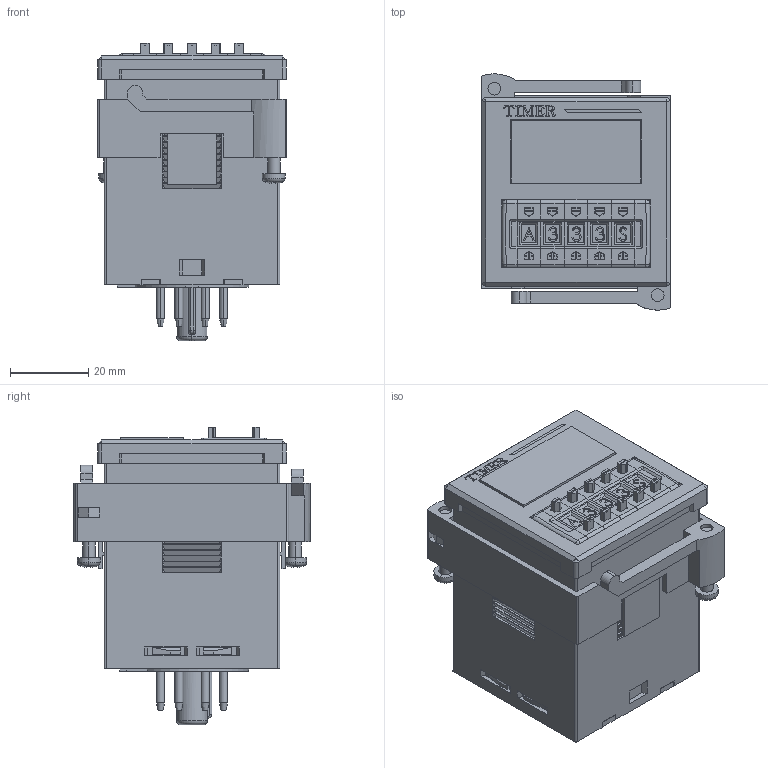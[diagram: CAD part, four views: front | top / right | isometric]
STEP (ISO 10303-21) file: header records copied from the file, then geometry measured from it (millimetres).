
FILE_DESCRIPTION (( 'STEP AP214' ), '1' );
FILE_NAME ('LE3S.STEP', '2019-07-24T04:36:43', ( '' ), ( '' ), 'SwSTEP 2.0', 'SolidWorks 2018', '' );
FILE_SCHEMA (( 'AUTOMOTIVE_DESIGN' ));
Length unit declared in the file: millimetre
Products named in the file (1): LE3S
Bounding box: 48.3 x 60.24 x 75.79 mm (x, y, z)
Volume: 125532.2 mm3; surface area: 32715.6 mm2
Topology: 3 solids, 3 shells, 1765 faces, 4729 edges, 3139 vertices
Faces by surface type: plane 1271, bspline 241, cylinder 217, cone 20, sphere 8, torus 8
Entity records: 73910 total; most frequent: CARTESIAN_POINT 18834, ORIENTED_EDGE 9450, DIRECTION 7634, EDGE_CURVE 4725, LINE 3610, VECTOR 3610, VERTEX_POINT 3139, AXIS2_PLACEMENT_3D 2012
